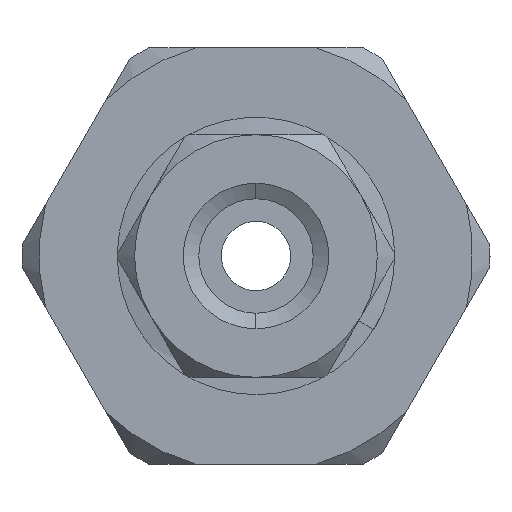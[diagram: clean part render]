
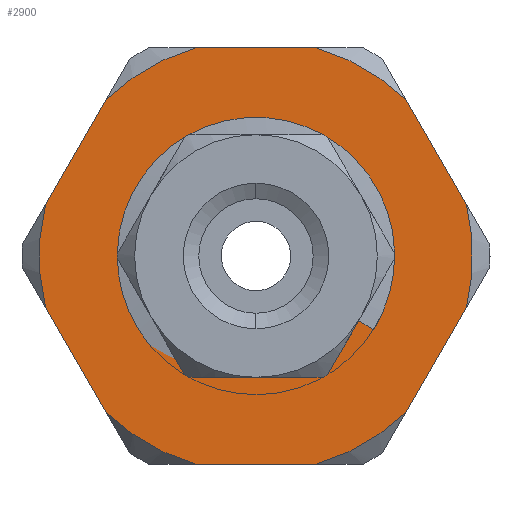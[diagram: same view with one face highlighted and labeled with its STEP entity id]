
A CAD part, front view. The second image highlights one B-rep face of the part: STEP entity #2900.
In plain terms, the highlighted planar face has unit normal (0, -1, 0).
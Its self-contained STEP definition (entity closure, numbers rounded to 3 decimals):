
#145 = ORIENTED_EDGE ( 'NONE', *, *, #2183, .F. ) ;
#225 = AXIS2_PLACEMENT_3D ( 'NONE', #5054, #13459, #7078 ) ;
#268 = VERTEX_POINT ( 'NONE', #9775 ) ;
#290 = VERTEX_POINT ( 'NONE', #13798 ) ;
#330 = CARTESIAN_POINT ( 'NONE',  ( 2.676, 9.325, 15.75 ) ) ;
#455 = EDGE_LOOP ( 'NONE', ( #10880, #13743, #11339, #8493, #4781, #8217, #12152, #7112, #16202, #145, #14204, #14902 ) ) ;
#509 = DIRECTION ( 'NONE',  ( 0., 1., 0. ) ) ;
#529 = FACE_OUTER_BOUND ( 'NONE', #455, .T. ) ;
#540 = AXIS2_PLACEMENT_3D ( 'NONE', #13818, #6133, #15089 ) ;
#621 = DIRECTION ( 'NONE',  ( 0., 1., 0. ) ) ;
#639 = CARTESIAN_POINT ( 'NONE',  ( -6.426, 9.325, 12.516 ) ) ;
#998 = CARTESIAN_POINT ( 'NONE',  ( 5.716, 9.325, 12.516 ) ) ;
#1473 = VERTEX_POINT ( 'NONE', #330 ) ;
#1569 = DIRECTION ( 'NONE',  ( 0.5, 0., 0.866 ) ) ;
#1907 = CARTESIAN_POINT ( 'NONE',  ( -0.355, 9.325, 14. ) ) ;
#1993 = VERTEX_POINT ( 'NONE', #12627 ) ;
#2183 = EDGE_CURVE ( 'NONE', #1993, #16384, #16247, .T. ) ;
#2343 = VECTOR ( 'NONE', #13449, 1000. ) ;
#2485 = EDGE_CURVE ( 'NONE', #11663, #2864, #9423, .T. ) ;
#2682 = CARTESIAN_POINT ( 'NONE',  ( -0.355, 9.325, 14. ) ) ;
#2690 = CIRCLE ( 'NONE', #540, 3.5 ) ;
#2841 = EDGE_CURVE ( 'NONE', #3472, #1473, #7364, .T. ) ;
#2854 = EDGE_LOOP ( 'NONE', ( #11144, #9129 ) ) ;
#2864 = VERTEX_POINT ( 'NONE', #6800 ) ;
#2900 = ADVANCED_FACE ( 'NONE', ( #10805, #529 ), #8164, .F. ) ;
#2948 = EDGE_CURVE ( 'NONE', #11675, #268, #12591, .T. ) ;
#2992 = CARTESIAN_POINT ( 'NONE',  ( 3.966, 9.325, 18.516 ) ) ;
#3060 = CARTESIAN_POINT ( 'NONE',  ( -0.355, 9.325, 14. ) ) ;
#3108 = DIRECTION ( 'NONE',  ( 0., 1., 0. ) ) ;
#3196 = DIRECTION ( 'NONE',  ( 0.866, 0., 0.5 ) ) ;
#3319 = LINE ( 'NONE', #4186, #12765 ) ;
#3419 = AXIS2_PLACEMENT_3D ( 'NONE', #1907, #10908, #3196 ) ;
#3432 = CARTESIAN_POINT ( 'NONE',  ( -6.426, 9.325, 15.484 ) ) ;
#3449 = DIRECTION ( 'NONE',  ( 0., 1., 0. ) ) ;
#3456 = EDGE_CURVE ( 'NONE', #7748, #11663, #10379, .T. ) ;
#3472 = VERTEX_POINT ( 'NONE', #11853 ) ;
#3549 = EDGE_CURVE ( 'NONE', #2864, #7345, #13379, .T. ) ;
#3903 = VERTEX_POINT ( 'NONE', #4762 ) ;
#3969 = DIRECTION ( 'NONE',  ( 0.866, 0., 0.5 ) ) ;
#4186 = CARTESIAN_POINT ( 'NONE',  ( 3.295, 9.325, 8.322 ) ) ;
#4340 = DIRECTION ( 'NONE',  ( 0.866, 0., 0.5 ) ) ;
#4662 = CIRCLE ( 'NONE', #3419, 6.25 ) ;
#4762 = CARTESIAN_POINT ( 'NONE',  ( -2.105, 9.325, 8. ) ) ;
#4767 = EDGE_CURVE ( 'NONE', #1473, #3472, #2690, .T. ) ;
#4781 = ORIENTED_EDGE ( 'NONE', *, *, #11772, .F. ) ;
#5054 = CARTESIAN_POINT ( 'NONE',  ( -0.355, 9.325, 14. ) ) ;
#5237 = AXIS2_PLACEMENT_3D ( 'NONE', #8208, #509, #9516 ) ;
#5404 = CARTESIAN_POINT ( 'NONE',  ( -4.005, 9.325, 19.678 ) ) ;
#5484 = DIRECTION ( 'NONE',  ( -0.5, 0., -0.866 ) ) ;
#5990 = VECTOR ( 'NONE', #11886, 1000. ) ;
#6133 = DIRECTION ( 'NONE',  ( 0., -1., 0. ) ) ;
#6162 = CARTESIAN_POINT ( 'NONE',  ( 3.966, 9.325, 9.484 ) ) ;
#6486 = AXIS2_PLACEMENT_3D ( 'NONE', #10814, #3108, #12096 ) ;
#6781 = DIRECTION ( 'NONE',  ( 1., 0., 0. ) ) ;
#6800 = CARTESIAN_POINT ( 'NONE',  ( -2.105, 9.325, 20. ) ) ;
#6928 = VECTOR ( 'NONE', #1569, 1000. ) ;
#7078 = DIRECTION ( 'NONE',  ( 0.866, 0., 0.5 ) ) ;
#7097 = AXIS2_PLACEMENT_3D ( 'NONE', #2682, #11672, #3969 ) ;
#7112 = ORIENTED_EDGE ( 'NONE', *, *, #3456, .F. ) ;
#7345 = VERTEX_POINT ( 'NONE', #14343 ) ;
#7364 = CIRCLE ( 'NONE', #12825, 3.5 ) ;
#7518 = EDGE_CURVE ( 'NONE', #16384, #7748, #12593, .T. ) ;
#7748 = VERTEX_POINT ( 'NONE', #3432 ) ;
#8164 = PLANE ( 'NONE',  #6486 ) ;
#8208 = CARTESIAN_POINT ( 'NONE',  ( -0.355, 9.325, 14. ) ) ;
#8217 = ORIENTED_EDGE ( 'NONE', *, *, #3549, .F. ) ;
#8283 = CARTESIAN_POINT ( 'NONE',  ( -3.447, 9.325, 8. ) ) ;
#8307 = EDGE_CURVE ( 'NONE', #3903, #1993, #9382, .T. ) ;
#8324 = CARTESIAN_POINT ( 'NONE',  ( -0.355, 9.325, 14. ) ) ;
#8493 = ORIENTED_EDGE ( 'NONE', *, *, #2948, .F. ) ;
#9129 = ORIENTED_EDGE ( 'NONE', *, *, #2841, .F. ) ;
#9382 = CIRCLE ( 'NONE', #7097, 6.25 ) ;
#9423 = CIRCLE ( 'NONE', #225, 6.25 ) ;
#9508 = VERTEX_POINT ( 'NONE', #998 ) ;
#9516 = DIRECTION ( 'NONE',  ( 0.866, 0., 0.5 ) ) ;
#9583 = DIRECTION ( 'NONE',  ( -1., 0., 0. ) ) ;
#9620 = DIRECTION ( 'NONE',  ( 0.866, 0., 0.5 ) ) ;
#9775 = CARTESIAN_POINT ( 'NONE',  ( 5.716, 9.325, 15.484 ) ) ;
#9885 = CIRCLE ( 'NONE', #16248, 6.25 ) ;
#10379 = LINE ( 'NONE', #5404, #6928 ) ;
#10794 = CARTESIAN_POINT ( 'NONE',  ( -4.676, 9.325, 18.516 ) ) ;
#10805 = FACE_BOUND ( 'NONE', #2854, .T. ) ;
#10814 = CARTESIAN_POINT ( 'NONE',  ( -8.714, 9.325, 16.478 ) ) ;
#10880 = ORIENTED_EDGE ( 'NONE', *, *, #14718, .F. ) ;
#10908 = DIRECTION ( 'NONE',  ( 0., 1., 0. ) ) ;
#11144 = ORIENTED_EDGE ( 'NONE', *, *, #4767, .F. ) ;
#11147 = CARTESIAN_POINT ( 'NONE',  ( -0.355, 9.325, 14. ) ) ;
#11176 = VECTOR ( 'NONE', #6781, 1000. ) ;
#11339 = ORIENTED_EDGE ( 'NONE', *, *, #12513, .F. ) ;
#11663 = VERTEX_POINT ( 'NONE', #10794 ) ;
#11672 = DIRECTION ( 'NONE',  ( 0., 1., 0. ) ) ;
#11675 = VERTEX_POINT ( 'NONE', #2992 ) ;
#11772 = EDGE_CURVE ( 'NONE', #7345, #11675, #4662, .T. ) ;
#11853 = CARTESIAN_POINT ( 'NONE',  ( -3.386, 9.325, 12.25 ) ) ;
#11875 = VECTOR ( 'NONE', #9583, 1000. ) ;
#11886 = DIRECTION ( 'NONE',  ( -0.5, 0., 0.866 ) ) ;
#12041 = DIRECTION ( 'NONE',  ( 0., -1., 0. ) ) ;
#12096 = DIRECTION ( 'NONE',  ( 0.866, 0., 0.5 ) ) ;
#12152 = ORIENTED_EDGE ( 'NONE', *, *, #2485, .F. ) ;
#12427 = DIRECTION ( 'NONE',  ( 0.866, 0., 0.5 ) ) ;
#12513 = EDGE_CURVE ( 'NONE', #268, #9508, #9885, .T. ) ;
#12591 = LINE ( 'NONE', #14708, #2343 ) ;
#12593 = CIRCLE ( 'NONE', #5237, 6.25 ) ;
#12627 = CARTESIAN_POINT ( 'NONE',  ( -4.676, 9.325, 9.484 ) ) ;
#12765 = VECTOR ( 'NONE', #5484, 1000. ) ;
#12825 = AXIS2_PLACEMENT_3D ( 'NONE', #3060, #12041, #4340 ) ;
#13379 = LINE ( 'NONE', #15712, #11176 ) ;
#13449 = DIRECTION ( 'NONE',  ( 0.5, 0., -0.866 ) ) ;
#13459 = DIRECTION ( 'NONE',  ( 0., 1., 0. ) ) ;
#13743 = ORIENTED_EDGE ( 'NONE', *, *, #14546, .F. ) ;
#13798 = CARTESIAN_POINT ( 'NONE',  ( 1.395, 9.325, 8. ) ) ;
#13818 = CARTESIAN_POINT ( 'NONE',  ( -0.355, 9.325, 14. ) ) ;
#14204 = ORIENTED_EDGE ( 'NONE', *, *, #8307, .F. ) ;
#14231 = VERTEX_POINT ( 'NONE', #6162 ) ;
#14307 = CARTESIAN_POINT ( 'NONE',  ( -5.551, 9.325, 11. ) ) ;
#14343 = CARTESIAN_POINT ( 'NONE',  ( 1.395, 9.325, 20. ) ) ;
#14546 = EDGE_CURVE ( 'NONE', #9508, #14231, #3319, .T. ) ;
#14708 = CARTESIAN_POINT ( 'NONE',  ( 4.841, 9.325, 17. ) ) ;
#14718 = EDGE_CURVE ( 'NONE', #14231, #290, #15142, .T. ) ;
#14902 = ORIENTED_EDGE ( 'NONE', *, *, #16368, .F. ) ;
#15089 = DIRECTION ( 'NONE',  ( 0.866, 0., 0.5 ) ) ;
#15109 = AXIS2_PLACEMENT_3D ( 'NONE', #8324, #621, #9620 ) ;
#15142 = CIRCLE ( 'NONE', #15109, 6.25 ) ;
#15260 = LINE ( 'NONE', #8283, #11875 ) ;
#15712 = CARTESIAN_POINT ( 'NONE',  ( 2.737, 9.325, 20. ) ) ;
#16202 = ORIENTED_EDGE ( 'NONE', *, *, #7518, .F. ) ;
#16247 = LINE ( 'NONE', #14307, #5990 ) ;
#16248 = AXIS2_PLACEMENT_3D ( 'NONE', #11147, #3449, #12427 ) ;
#16368 = EDGE_CURVE ( 'NONE', #290, #3903, #15260, .T. ) ;
#16384 = VERTEX_POINT ( 'NONE', #639 ) ;
